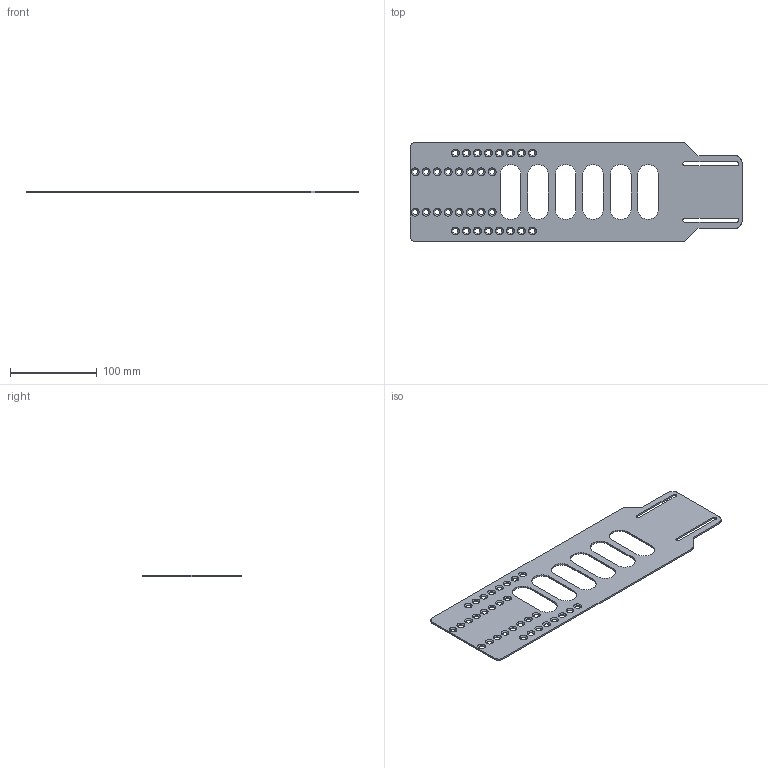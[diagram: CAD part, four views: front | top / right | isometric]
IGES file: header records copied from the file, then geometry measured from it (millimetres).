
Start section:  PTC IGES file: cu_bkt_side_plt_rack_mount_long.igs
Global section: file name: cu_bkt_side_plt_rack_mount_long.igs; native system: Creo Parametric by PTC Inc.; preprocessor: 2017480; author: talbott; organization: Unknown; date: 20180606.112941; units: millimetre
Bounding box: 383.29 x 114.3 x 1.9 mm (x, y, z)
Surface area: 69003.8 mm2 (no closed solid volume)
Topology: 0 solids, 0 shells, 180 faces, 940 edges, 940 vertices
Faces by surface type: revolution 152, bspline 28
